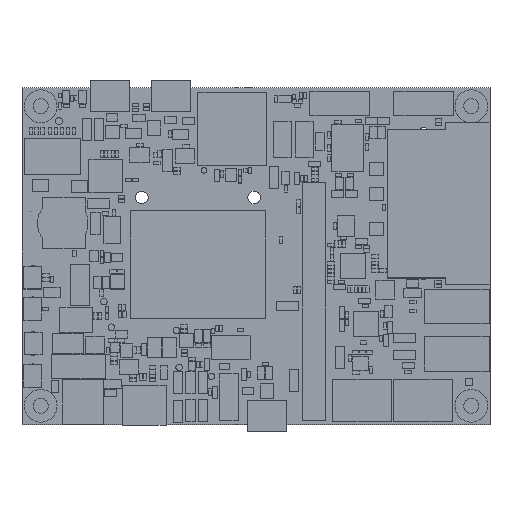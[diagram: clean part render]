
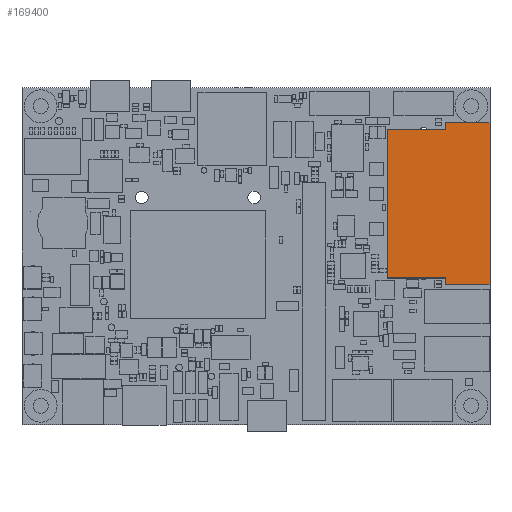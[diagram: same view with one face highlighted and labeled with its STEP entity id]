
A CAD part, top view. The second image highlights one B-rep face of the part: STEP entity #169400.
In plain terms, the highlighted planar face has unit normal (0, 0, 1).
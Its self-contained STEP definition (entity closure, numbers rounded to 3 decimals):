
#168778 = VERTEX_POINT('',#168779);
#168779 = CARTESIAN_POINT('',(78.1,63.1,15.21));
#168786 = PLANE('',#168787);
#168787 = AXIS2_PLACEMENT_3D('',#168788,#168789,#168790);
#168788 = CARTESIAN_POINT('',(78.1,63.1,0.));
#168789 = DIRECTION('',(1.,0.,0.));
#168790 = DIRECTION('',(0.,-1.,0.));
#168798 = PLANE('',#168799);
#168799 = AXIS2_PLACEMENT_3D('',#168800,#168801,#168802);
#168800 = CARTESIAN_POINT('',(90.5,63.1,0.));
#168801 = DIRECTION('',(0.,-1.,0.));
#168802 = DIRECTION('',(-1.,0.,0.));
#168810 = EDGE_CURVE('',#168778,#168811,#168813,.T.);
#168811 = VERTEX_POINT('',#168812);
#168812 = CARTESIAN_POINT('',(78.1,31.3,15.21));
#168813 = SURFACE_CURVE('',#168814,(#168818,#168825),.PCURVE_S1.);
#168814 = LINE('',#168815,#168816);
#168815 = CARTESIAN_POINT('',(78.1,63.1,15.21));
#168816 = VECTOR('',#168817,1.);
#168817 = DIRECTION('',(0.,-1.,0.));
#168818 = PCURVE('',#168786,#168819);
#168819 = DEFINITIONAL_REPRESENTATION('',(#168820),#168824);
#168820 = LINE('',#168821,#168822);
#168821 = CARTESIAN_POINT('',(0.,-15.21));
#168822 = VECTOR('',#168823,1.);
#168823 = DIRECTION('',(1.,0.));
#168824 = ( GEOMETRIC_REPRESENTATION_CONTEXT(2) 
PARAMETRIC_REPRESENTATION_CONTEXT() REPRESENTATION_CONTEXT('2D SPACE',''
  ) );
#168825 = PCURVE('',#168826,#168831);
#168826 = PLANE('',#168827);
#168827 = AXIS2_PLACEMENT_3D('',#168828,#168829,#168830);
#168828 = CARTESIAN_POINT('',(89.357,47.2,15.21));
#168829 = DIRECTION('',(0.,0.,1.));
#168830 = DIRECTION('',(0.,-1.,0.));
#168831 = DEFINITIONAL_REPRESENTATION('',(#168832),#168836);
#168832 = LINE('',#168833,#168834);
#168833 = CARTESIAN_POINT('',(-15.9,-11.257));
#168834 = VECTOR('',#168835,1.);
#168835 = DIRECTION('',(1.,0.));
#168836 = ( GEOMETRIC_REPRESENTATION_CONTEXT(2) 
PARAMETRIC_REPRESENTATION_CONTEXT() REPRESENTATION_CONTEXT('2D SPACE',''
  ) );
#168854 = PLANE('',#168855);
#168855 = AXIS2_PLACEMENT_3D('',#168856,#168857,#168858);
#168856 = CARTESIAN_POINT('',(78.1,31.3,0.));
#168857 = DIRECTION('',(0.,1.,0.));
#168858 = DIRECTION('',(1.,0.,0.));
#168896 = EDGE_CURVE('',#168811,#168897,#168899,.T.);
#168897 = VERTEX_POINT('',#168898);
#168898 = CARTESIAN_POINT('',(90.5,31.3,15.21));
#168899 = SURFACE_CURVE('',#168900,(#168904,#168911),.PCURVE_S1.);
#168900 = LINE('',#168901,#168902);
#168901 = CARTESIAN_POINT('',(78.1,31.3,15.21));
#168902 = VECTOR('',#168903,1.);
#168903 = DIRECTION('',(1.,0.,0.));
#168904 = PCURVE('',#168854,#168905);
#168905 = DEFINITIONAL_REPRESENTATION('',(#168906),#168910);
#168906 = LINE('',#168907,#168908);
#168907 = CARTESIAN_POINT('',(0.,-15.21));
#168908 = VECTOR('',#168909,1.);
#168909 = DIRECTION('',(1.,0.));
#168910 = ( GEOMETRIC_REPRESENTATION_CONTEXT(2) 
PARAMETRIC_REPRESENTATION_CONTEXT() REPRESENTATION_CONTEXT('2D SPACE',''
  ) );
#168911 = PCURVE('',#168826,#168912);
#168912 = DEFINITIONAL_REPRESENTATION('',(#168913),#168917);
#168913 = LINE('',#168914,#168915);
#168914 = CARTESIAN_POINT('',(15.9,-11.257));
#168915 = VECTOR('',#168916,1.);
#168916 = DIRECTION('',(0.,1.));
#168917 = ( GEOMETRIC_REPRESENTATION_CONTEXT(2) 
PARAMETRIC_REPRESENTATION_CONTEXT() REPRESENTATION_CONTEXT('2D SPACE',''
  ) );
#168935 = PLANE('',#168936);
#168936 = AXIS2_PLACEMENT_3D('',#168937,#168938,#168939);
#168937 = CARTESIAN_POINT('',(90.5,31.3,0.));
#168938 = DIRECTION('',(1.,0.,0.));
#168939 = DIRECTION('',(0.,-1.,0.));
#168972 = EDGE_CURVE('',#168897,#168973,#168975,.T.);
#168973 = VERTEX_POINT('',#168974);
#168974 = CARTESIAN_POINT('',(90.5,29.9,15.21));
#168975 = SURFACE_CURVE('',#168976,(#168980,#168987),.PCURVE_S1.);
#168976 = LINE('',#168977,#168978);
#168977 = CARTESIAN_POINT('',(90.5,31.3,15.21));
#168978 = VECTOR('',#168979,1.);
#168979 = DIRECTION('',(0.,-1.,0.));
#168980 = PCURVE('',#168935,#168981);
#168981 = DEFINITIONAL_REPRESENTATION('',(#168982),#168986);
#168982 = LINE('',#168983,#168984);
#168983 = CARTESIAN_POINT('',(0.,-15.21));
#168984 = VECTOR('',#168985,1.);
#168985 = DIRECTION('',(1.,0.));
#168986 = ( GEOMETRIC_REPRESENTATION_CONTEXT(2) 
PARAMETRIC_REPRESENTATION_CONTEXT() REPRESENTATION_CONTEXT('2D SPACE',''
  ) );
#168987 = PCURVE('',#168826,#168988);
#168988 = DEFINITIONAL_REPRESENTATION('',(#168989),#168993);
#168989 = LINE('',#168990,#168991);
#168990 = CARTESIAN_POINT('',(15.9,1.143));
#168991 = VECTOR('',#168992,1.);
#168992 = DIRECTION('',(1.,0.));
#168993 = ( GEOMETRIC_REPRESENTATION_CONTEXT(2) 
PARAMETRIC_REPRESENTATION_CONTEXT() REPRESENTATION_CONTEXT('2D SPACE',''
  ) );
#169011 = PLANE('',#169012);
#169012 = AXIS2_PLACEMENT_3D('',#169013,#169014,#169015);
#169013 = CARTESIAN_POINT('',(90.5,29.9,0.));
#169014 = DIRECTION('',(0.,1.,0.));
#169015 = DIRECTION('',(1.,0.,0.));
#169048 = EDGE_CURVE('',#168973,#169049,#169051,.T.);
#169049 = VERTEX_POINT('',#169050);
#169050 = CARTESIAN_POINT('',(100.,29.9,15.21));
#169051 = SURFACE_CURVE('',#169052,(#169056,#169063),.PCURVE_S1.);
#169052 = LINE('',#169053,#169054);
#169053 = CARTESIAN_POINT('',(90.5,29.9,15.21));
#169054 = VECTOR('',#169055,1.);
#169055 = DIRECTION('',(1.,0.,0.));
#169056 = PCURVE('',#169011,#169057);
#169057 = DEFINITIONAL_REPRESENTATION('',(#169058),#169062);
#169058 = LINE('',#169059,#169060);
#169059 = CARTESIAN_POINT('',(0.,-15.21));
#169060 = VECTOR('',#169061,1.);
#169061 = DIRECTION('',(1.,0.));
#169062 = ( GEOMETRIC_REPRESENTATION_CONTEXT(2) 
PARAMETRIC_REPRESENTATION_CONTEXT() REPRESENTATION_CONTEXT('2D SPACE',''
  ) );
#169063 = PCURVE('',#168826,#169064);
#169064 = DEFINITIONAL_REPRESENTATION('',(#169065),#169069);
#169065 = LINE('',#169066,#169067);
#169066 = CARTESIAN_POINT('',(17.3,1.143));
#169067 = VECTOR('',#169068,1.);
#169068 = DIRECTION('',(0.,1.));
#169069 = ( GEOMETRIC_REPRESENTATION_CONTEXT(2) 
PARAMETRIC_REPRESENTATION_CONTEXT() REPRESENTATION_CONTEXT('2D SPACE',''
  ) );
#169087 = PLANE('',#169088);
#169088 = AXIS2_PLACEMENT_3D('',#169089,#169090,#169091);
#169089 = CARTESIAN_POINT('',(100.,29.9,0.));
#169090 = DIRECTION('',(-1.,0.,0.));
#169091 = DIRECTION('',(0.,1.,0.));
#169124 = EDGE_CURVE('',#169049,#169125,#169127,.T.);
#169125 = VERTEX_POINT('',#169126);
#169126 = CARTESIAN_POINT('',(100.,64.5,15.21));
#169127 = SURFACE_CURVE('',#169128,(#169132,#169139),.PCURVE_S1.);
#169128 = LINE('',#169129,#169130);
#169129 = CARTESIAN_POINT('',(100.,29.9,15.21));
#169130 = VECTOR('',#169131,1.);
#169131 = DIRECTION('',(0.,1.,0.));
#169132 = PCURVE('',#169087,#169133);
#169133 = DEFINITIONAL_REPRESENTATION('',(#169134),#169138);
#169134 = LINE('',#169135,#169136);
#169135 = CARTESIAN_POINT('',(0.,-15.21));
#169136 = VECTOR('',#169137,1.);
#169137 = DIRECTION('',(1.,0.));
#169138 = ( GEOMETRIC_REPRESENTATION_CONTEXT(2) 
PARAMETRIC_REPRESENTATION_CONTEXT() REPRESENTATION_CONTEXT('2D SPACE',''
  ) );
#169139 = PCURVE('',#168826,#169140);
#169140 = DEFINITIONAL_REPRESENTATION('',(#169141),#169145);
#169141 = LINE('',#169142,#169143);
#169142 = CARTESIAN_POINT('',(17.3,10.643));
#169143 = VECTOR('',#169144,1.);
#169144 = DIRECTION('',(-1.,0.));
#169145 = ( GEOMETRIC_REPRESENTATION_CONTEXT(2) 
PARAMETRIC_REPRESENTATION_CONTEXT() REPRESENTATION_CONTEXT('2D SPACE',''
  ) );
#169163 = PLANE('',#169164);
#169164 = AXIS2_PLACEMENT_3D('',#169165,#169166,#169167);
#169165 = CARTESIAN_POINT('',(100.,64.5,0.));
#169166 = DIRECTION('',(0.,-1.,0.));
#169167 = DIRECTION('',(-1.,0.,0.));
#169200 = EDGE_CURVE('',#169125,#169201,#169203,.T.);
#169201 = VERTEX_POINT('',#169202);
#169202 = CARTESIAN_POINT('',(90.5,64.5,15.21));
#169203 = SURFACE_CURVE('',#169204,(#169208,#169215),.PCURVE_S1.);
#169204 = LINE('',#169205,#169206);
#169205 = CARTESIAN_POINT('',(100.,64.5,15.21));
#169206 = VECTOR('',#169207,1.);
#169207 = DIRECTION('',(-1.,0.,0.));
#169208 = PCURVE('',#169163,#169209);
#169209 = DEFINITIONAL_REPRESENTATION('',(#169210),#169214);
#169210 = LINE('',#169211,#169212);
#169211 = CARTESIAN_POINT('',(0.,-15.21));
#169212 = VECTOR('',#169213,1.);
#169213 = DIRECTION('',(1.,0.));
#169214 = ( GEOMETRIC_REPRESENTATION_CONTEXT(2) 
PARAMETRIC_REPRESENTATION_CONTEXT() REPRESENTATION_CONTEXT('2D SPACE',''
  ) );
#169215 = PCURVE('',#168826,#169216);
#169216 = DEFINITIONAL_REPRESENTATION('',(#169217),#169221);
#169217 = LINE('',#169218,#169219);
#169218 = CARTESIAN_POINT('',(-17.3,10.643));
#169219 = VECTOR('',#169220,1.);
#169220 = DIRECTION('',(0.,-1.));
#169221 = ( GEOMETRIC_REPRESENTATION_CONTEXT(2) 
PARAMETRIC_REPRESENTATION_CONTEXT() REPRESENTATION_CONTEXT('2D SPACE',''
  ) );
#169239 = PLANE('',#169240);
#169240 = AXIS2_PLACEMENT_3D('',#169241,#169242,#169243);
#169241 = CARTESIAN_POINT('',(90.5,64.5,0.));
#169242 = DIRECTION('',(1.,0.,0.));
#169243 = DIRECTION('',(0.,-1.,0.));
#169276 = EDGE_CURVE('',#169201,#169277,#169279,.T.);
#169277 = VERTEX_POINT('',#169278);
#169278 = CARTESIAN_POINT('',(90.5,63.1,15.21));
#169279 = SURFACE_CURVE('',#169280,(#169284,#169291),.PCURVE_S1.);
#169280 = LINE('',#169281,#169282);
#169281 = CARTESIAN_POINT('',(90.5,64.5,15.21));
#169282 = VECTOR('',#169283,1.);
#169283 = DIRECTION('',(0.,-1.,0.));
#169284 = PCURVE('',#169239,#169285);
#169285 = DEFINITIONAL_REPRESENTATION('',(#169286),#169290);
#169286 = LINE('',#169287,#169288);
#169287 = CARTESIAN_POINT('',(0.,-15.21));
#169288 = VECTOR('',#169289,1.);
#169289 = DIRECTION('',(1.,0.));
#169290 = ( GEOMETRIC_REPRESENTATION_CONTEXT(2) 
PARAMETRIC_REPRESENTATION_CONTEXT() REPRESENTATION_CONTEXT('2D SPACE',''
  ) );
#169291 = PCURVE('',#168826,#169292);
#169292 = DEFINITIONAL_REPRESENTATION('',(#169293),#169297);
#169293 = LINE('',#169294,#169295);
#169294 = CARTESIAN_POINT('',(-17.3,1.143));
#169295 = VECTOR('',#169296,1.);
#169296 = DIRECTION('',(1.,0.));
#169297 = ( GEOMETRIC_REPRESENTATION_CONTEXT(2) 
PARAMETRIC_REPRESENTATION_CONTEXT() REPRESENTATION_CONTEXT('2D SPACE',''
  ) );
#169347 = EDGE_CURVE('',#169277,#168778,#169348,.T.);
#169348 = SURFACE_CURVE('',#169349,(#169353,#169360),.PCURVE_S1.);
#169349 = LINE('',#169350,#169351);
#169350 = CARTESIAN_POINT('',(90.5,63.1,15.21));
#169351 = VECTOR('',#169352,1.);
#169352 = DIRECTION('',(-1.,0.,0.));
#169353 = PCURVE('',#168798,#169354);
#169354 = DEFINITIONAL_REPRESENTATION('',(#169355),#169359);
#169355 = LINE('',#169356,#169357);
#169356 = CARTESIAN_POINT('',(0.,-15.21));
#169357 = VECTOR('',#169358,1.);
#169358 = DIRECTION('',(1.,0.));
#169359 = ( GEOMETRIC_REPRESENTATION_CONTEXT(2) 
PARAMETRIC_REPRESENTATION_CONTEXT() REPRESENTATION_CONTEXT('2D SPACE',''
  ) );
#169360 = PCURVE('',#168826,#169361);
#169361 = DEFINITIONAL_REPRESENTATION('',(#169362),#169366);
#169362 = LINE('',#169363,#169364);
#169363 = CARTESIAN_POINT('',(-15.9,1.143));
#169364 = VECTOR('',#169365,1.);
#169365 = DIRECTION('',(0.,-1.));
#169366 = ( GEOMETRIC_REPRESENTATION_CONTEXT(2) 
PARAMETRIC_REPRESENTATION_CONTEXT() REPRESENTATION_CONTEXT('2D SPACE',''
  ) );
#169400 = ADVANCED_FACE('',(#169401),#168826,.T.);
#169401 = FACE_BOUND('',#169402,.T.);
#169402 = EDGE_LOOP('',(#169403,#169404,#169405,#169406,#169407,#169408,
    #169409,#169410));
#169403 = ORIENTED_EDGE('',*,*,#168810,.T.);
#169404 = ORIENTED_EDGE('',*,*,#168896,.T.);
#169405 = ORIENTED_EDGE('',*,*,#168972,.T.);
#169406 = ORIENTED_EDGE('',*,*,#169048,.T.);
#169407 = ORIENTED_EDGE('',*,*,#169124,.T.);
#169408 = ORIENTED_EDGE('',*,*,#169200,.T.);
#169409 = ORIENTED_EDGE('',*,*,#169276,.T.);
#169410 = ORIENTED_EDGE('',*,*,#169347,.T.);
